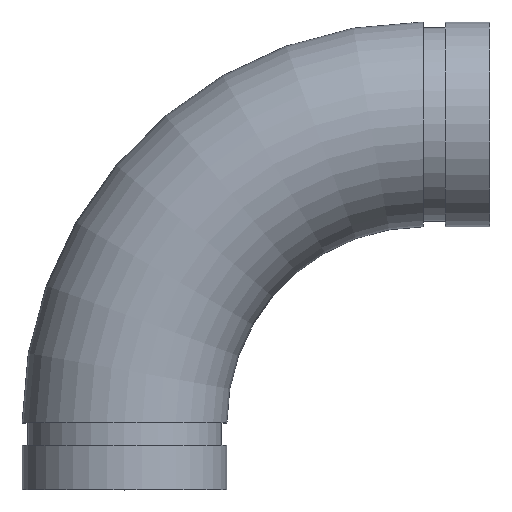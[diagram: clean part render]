
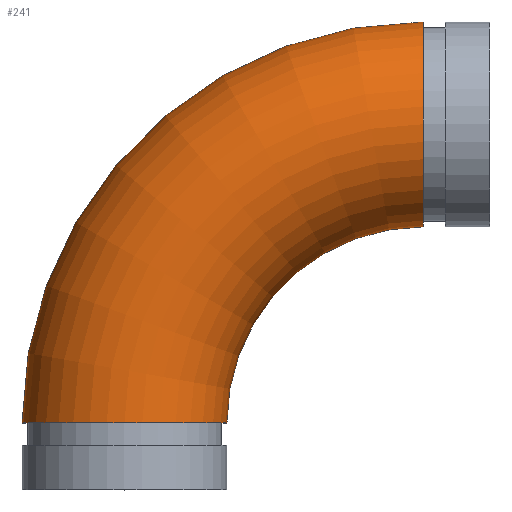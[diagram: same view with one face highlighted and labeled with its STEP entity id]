
A CAD part, top view. The second image highlights one B-rep face of the part: STEP entity #241.
In plain terms, the highlighted toroidal (fillet/blend) face has major radius 106.477 mm and minor radius 36.513 mm.
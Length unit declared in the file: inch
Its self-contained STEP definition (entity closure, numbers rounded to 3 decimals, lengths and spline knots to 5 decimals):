
#15=TOROIDAL_SURFACE('',#297,4.192,1.4375);
#38=FACE_OUTER_BOUND('',#56,.T.);
#56=EDGE_LOOP('',(#195,#196,#197,#198,#199,#200));
#78=CIRCLE('',#271,1.4375);
#79=CIRCLE('',#272,1.4375);
#88=CIRCLE('',#285,1.4375);
#89=CIRCLE('',#286,1.4375);
#96=CIRCLE('',#298,2.7545);
#102=VERTEX_POINT('',#399);
#103=VERTEX_POINT('',#400);
#112=VERTEX_POINT('',#424);
#113=VERTEX_POINT('',#425);
#125=EDGE_CURVE('',#102,#103,#78,.T.);
#126=EDGE_CURVE('',#103,#102,#79,.T.);
#136=EDGE_CURVE('',#112,#113,#88,.T.);
#137=EDGE_CURVE('',#113,#112,#89,.T.);
#147=EDGE_CURVE('',#103,#113,#96,.T.);
#195=ORIENTED_EDGE('',*,*,#125,.T.);
#196=ORIENTED_EDGE('',*,*,#147,.T.);
#197=ORIENTED_EDGE('',*,*,#136,.F.);
#198=ORIENTED_EDGE('',*,*,#137,.F.);
#199=ORIENTED_EDGE('',*,*,#147,.F.);
#200=ORIENTED_EDGE('',*,*,#126,.T.);
#241=ADVANCED_FACE('',(#38),#15,.T.);
#271=AXIS2_PLACEMENT_3D('',#401,#318,#319);
#272=AXIS2_PLACEMENT_3D('',#402,#320,#321);
#285=AXIS2_PLACEMENT_3D('',#426,#347,#348);
#286=AXIS2_PLACEMENT_3D('',#427,#349,#350);
#297=AXIS2_PLACEMENT_3D('',#446,#374,#375);
#298=AXIS2_PLACEMENT_3D('',#447,#376,#377);
#318=DIRECTION('center_axis',(0.,1.,0.));
#319=DIRECTION('ref_axis',(-1.,0.,0.));
#320=DIRECTION('center_axis',(0.,1.,0.));
#321=DIRECTION('ref_axis',(-1.,0.,0.));
#347=DIRECTION('center_axis',(1.,0.,0.));
#348=DIRECTION('ref_axis',(0.,1.,0.));
#349=DIRECTION('center_axis',(1.,0.,0.));
#350=DIRECTION('ref_axis',(0.,1.,0.));
#374=DIRECTION('center_axis',(0.,0.,1.));
#375=DIRECTION('ref_axis',(1.,0.,0.));
#376=DIRECTION('center_axis',(0.,0.,-1.));
#377=DIRECTION('ref_axis',(1.,0.,0.));
#399=CARTESIAN_POINT('',(0.,0.938,-1.4375));
#400=CARTESIAN_POINT('',(1.4375,0.938,0.));
#401=CARTESIAN_POINT('Origin',(0.,0.938,0.));
#402=CARTESIAN_POINT('Origin',(0.,0.938,0.));
#424=CARTESIAN_POINT('',(4.192,6.5675,0.));
#425=CARTESIAN_POINT('',(4.192,3.6925,0.));
#426=CARTESIAN_POINT('Origin',(4.192,5.13,0.));
#427=CARTESIAN_POINT('Origin',(4.192,5.13,0.));
#446=CARTESIAN_POINT('Origin',(4.192,0.938,0.));
#447=CARTESIAN_POINT('Origin',(4.192,0.938,0.));
